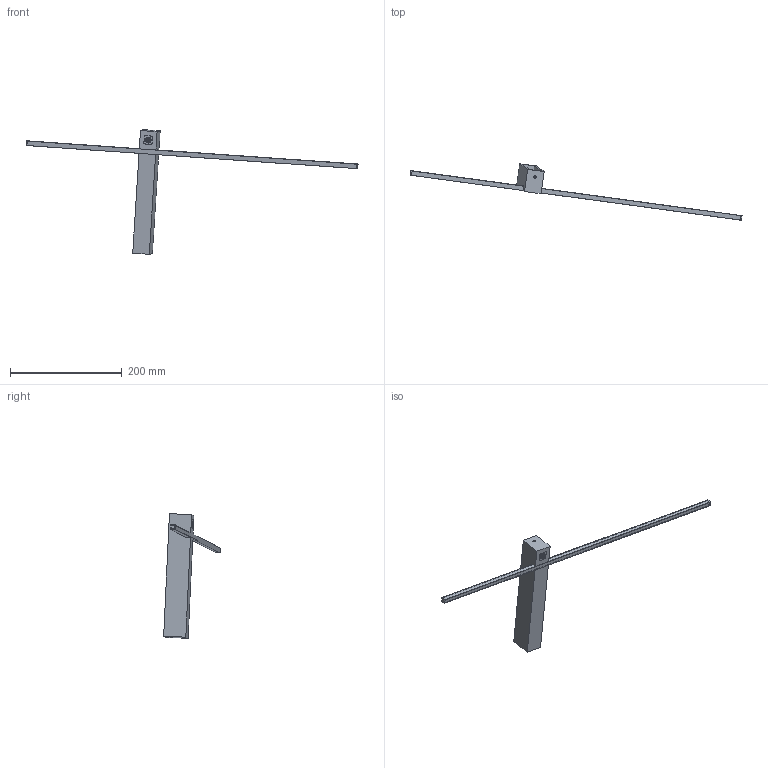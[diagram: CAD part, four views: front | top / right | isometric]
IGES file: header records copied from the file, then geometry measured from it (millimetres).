
Start section: SolidWorks IGES file using NURBS representation for surfaces
Global section: file name: Z:\Modele 3D_WWW\_KOLEKCJE_WWW\IMPULSE-LED\IMPULSE-LED-S-8115\IMPULSE-LED-S-8115.IGS; native system: SolidWorks 2021; preprocessor: SolidWorks 2021; author: gabriela.tworek; date: 211004.134434; units: millimetre
Bounding box: 593.9 x 101.37 x 222.91 mm (x, y, z)
Surface area: 96151 mm2 (no closed solid volume)
Topology: 0 solids, 0 shells, 239 faces, 2616 edges, 2600 vertices
Faces by surface type: bspline 239
